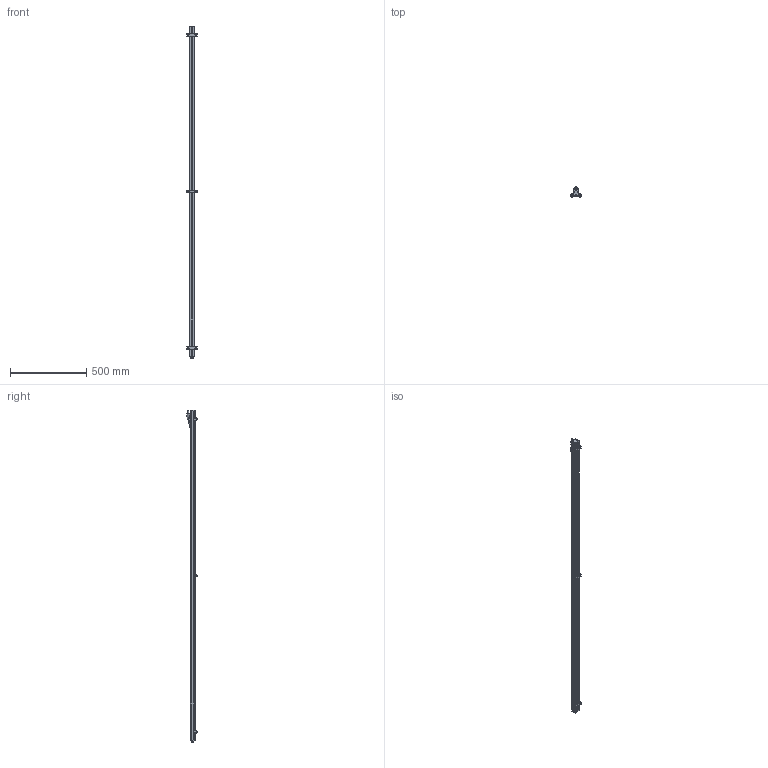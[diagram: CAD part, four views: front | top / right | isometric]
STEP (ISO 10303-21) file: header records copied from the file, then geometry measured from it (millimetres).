
FILE_DESCRIPTION(('STEP AP214'),'1');
FILE_NAME('burster_8718-2000_cxw97a8h8mzu5ngf1y33cvwmr.stp','2017-04-18T16:30:24',('TraceParts'),('TraceParts S.A.'),'Spatial InterOp 3D',' ',' ');
FILE_SCHEMA(('automotive_design'));
Length unit declared in the file: millimetre
Products named in the file (1): burster_8718-2000_cxw97a8h8mzu5ngf1y33cvwmr
Bounding box: 68 x 67.8 x 2180 mm (x, y, z)
Volume: 2521207.1 mm3; surface area: 429011.6 mm2
Topology: 1 solids, 2 shells, 753 faces, 2140 edges, 1374 vertices
Faces by surface type: plane 394, cylinder 255, cone 40, torus 36, bspline 18, sphere 10
Entity records: 32367 total; most frequent: CARTESIAN_POINT 6481, ORIENTED_EDGE 4216, DIRECTION 4189, EDGE_CURVE 2108, AXIS2_PLACEMENT_3D 1434, VERTEX_POINT 1374, LINE 1321, VECTOR 1321
